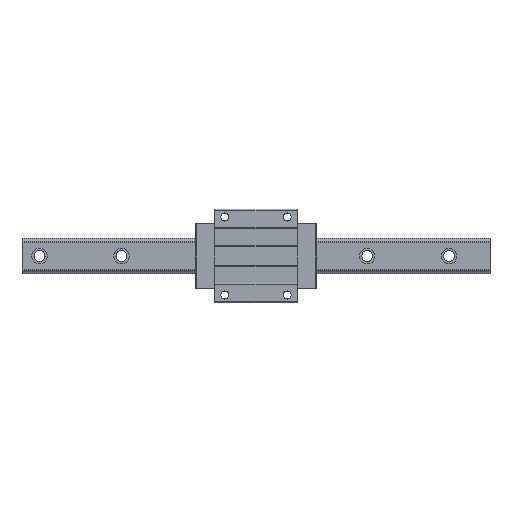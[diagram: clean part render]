
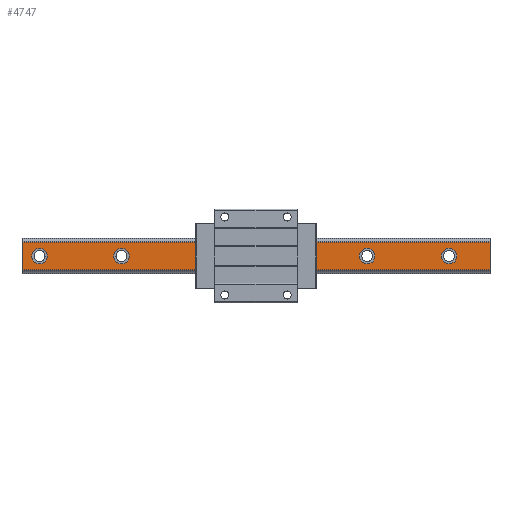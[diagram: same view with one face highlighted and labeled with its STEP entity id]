
A CAD part, top view. The second image highlights one B-rep face of the part: STEP entity #4747.
In plain terms, the highlighted planar face has unit normal (0, 0, 1).
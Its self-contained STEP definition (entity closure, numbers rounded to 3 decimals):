
#10 = EDGE_CURVE ( 'NONE', #5996, #6899, #5015, .T. ) ;
#87 = CIRCLE ( 'NONE', #2002, 10. ) ;
#147 = VERTEX_POINT ( 'NONE', #6719 ) ;
#223 = VERTEX_POINT ( 'NONE', #7252 ) ;
#259 = DIRECTION ( 'NONE',  ( 1., 0., 0. ) ) ;
#330 = ORIENTED_EDGE ( 'NONE', *, *, #3965, .F. ) ;
#353 = EDGE_CURVE ( 'NONE', #147, #5846, #4778, .T. ) ;
#419 = CIRCLE ( 'NONE', #6613, 10. ) ;
#432 = EDGE_LOOP ( 'NONE', ( #3594, #3471 ) ) ;
#446 = CARTESIAN_POINT ( 'NONE',  ( -77.5, 0., 32. ) ) ;
#450 = AXIS2_PLACEMENT_3D ( 'NONE', #6332, #3497, #259 ) ;
#515 = VERTEX_POINT ( 'NONE', #5346 ) ;
#532 = EDGE_CURVE ( 'NONE', #7146, #3016, #3218, .T. ) ;
#589 = CARTESIAN_POINT ( 'NONE',  ( 152.5, 0., 32. ) ) ;
#602 = DIRECTION ( 'NONE',  ( 0., 0., 1. ) ) ;
#603 = DIRECTION ( 'NONE',  ( 1., 0., 0. ) ) ;
#653 = CARTESIAN_POINT ( 'NONE',  ( -182.5, 0., 32. ) ) ;
#709 = CARTESIAN_POINT ( 'NONE',  ( -267.5, 0., 32. ) ) ;
#794 = ORIENTED_EDGE ( 'NONE', *, *, #4532, .F. ) ;
#808 = DIRECTION ( 'NONE',  ( 0., 0., 1. ) ) ;
#814 = EDGE_LOOP ( 'NONE', ( #5452, #4750 ) ) ;
#886 = CIRCLE ( 'NONE', #4707, 10. ) ;
#922 = ORIENTED_EDGE ( 'NONE', *, *, #1496, .F. ) ;
#1061 = CARTESIAN_POINT ( 'NONE',  ( 300., 17.738, 32. ) ) ;
#1065 = DIRECTION ( 'NONE',  ( 0., 0., 1. ) ) ;
#1148 = CIRCLE ( 'NONE', #6504, 10. ) ;
#1157 = DIRECTION ( 'NONE',  ( -1., 0., 0. ) ) ;
#1251 = EDGE_LOOP ( 'NONE', ( #6153, #6026 ) ) ;
#1255 = CIRCLE ( 'NONE', #3269, 10. ) ;
#1406 = ORIENTED_EDGE ( 'NONE', *, *, #7144, .T. ) ;
#1451 = CARTESIAN_POINT ( 'NONE',  ( -300., -17.738, 32. ) ) ;
#1484 = DIRECTION ( 'NONE',  ( 1., 0., 0. ) ) ;
#1496 = EDGE_CURVE ( 'NONE', #5846, #147, #4802, .T. ) ;
#1588 = LINE ( 'NONE', #7109, #3533 ) ;
#1618 = ORIENTED_EDGE ( 'NONE', *, *, #3562, .F. ) ;
#1635 = DIRECTION ( 'NONE',  ( 0., 0., -1. ) ) ;
#1854 = DIRECTION ( 'NONE',  ( 1., 0., 0. ) ) ;
#1908 = ORIENTED_EDGE ( 'NONE', *, *, #2469, .F. ) ;
#2002 = AXIS2_PLACEMENT_3D ( 'NONE', #2099, #2655, #3785 ) ;
#2099 = CARTESIAN_POINT ( 'NONE',  ( 247.5, 0., 32. ) ) ;
#2107 = AXIS2_PLACEMENT_3D ( 'NONE', #5049, #5090, #603 ) ;
#2185 = DIRECTION ( 'NONE',  ( 0., -1., 0. ) ) ;
#2237 = EDGE_CURVE ( 'NONE', #6899, #5996, #2925, .T. ) ;
#2243 = DIRECTION ( 'NONE',  ( 1., 0., 0. ) ) ;
#2248 = CARTESIAN_POINT ( 'NONE',  ( -300., -17.738, 32. ) ) ;
#2469 = EDGE_CURVE ( 'NONE', #5924, #5530, #419, .T. ) ;
#2655 = DIRECTION ( 'NONE',  ( 0., 0., 1. ) ) ;
#2671 = FACE_BOUND ( 'NONE', #5734, .T. ) ;
#2713 = CIRCLE ( 'NONE', #450, 10. ) ;
#2714 = FACE_BOUND ( 'NONE', #814, .T. ) ;
#2740 = CARTESIAN_POINT ( 'NONE',  ( -287.5, 0., 32. ) ) ;
#2747 = AXIS2_PLACEMENT_3D ( 'NONE', #6073, #1065, #6728 ) ;
#2760 = DIRECTION ( 'NONE',  ( 1., 0., 0. ) ) ;
#2900 = DIRECTION ( 'NONE',  ( 0., 0., 1. ) ) ;
#2925 = CIRCLE ( 'NONE', #7324, 10. ) ;
#3016 = VERTEX_POINT ( 'NONE', #5741 ) ;
#3218 = LINE ( 'NONE', #4933, #6679 ) ;
#3269 = AXIS2_PLACEMENT_3D ( 'NONE', #5469, #4912, #1484 ) ;
#3333 = ORIENTED_EDGE ( 'NONE', *, *, #532, .F. ) ;
#3356 = DIRECTION ( 'NONE',  ( 0., 0., 1. ) ) ;
#3362 = AXIS2_PLACEMENT_3D ( 'NONE', #6539, #4870, #6427 ) ;
#3413 = CIRCLE ( 'NONE', #2107, 10. ) ;
#3471 = ORIENTED_EDGE ( 'NONE', *, *, #2237, .F. ) ;
#3497 = DIRECTION ( 'NONE',  ( 0., 0., 1. ) ) ;
#3533 = VECTOR ( 'NONE', #6094, 1000. ) ;
#3562 = EDGE_CURVE ( 'NONE', #3016, #6786, #1588, .T. ) ;
#3594 = ORIENTED_EDGE ( 'NONE', *, *, #10, .F. ) ;
#3754 = EDGE_CURVE ( 'NONE', #5332, #6150, #3413, .T. ) ;
#3785 = DIRECTION ( 'NONE',  ( 1., 0., 0. ) ) ;
#3796 = VERTEX_POINT ( 'NONE', #5273 ) ;
#3824 = DIRECTION ( 'NONE',  ( 1., 0., 0. ) ) ;
#3827 = ORIENTED_EDGE ( 'NONE', *, *, #3929, .F. ) ;
#3929 = EDGE_CURVE ( 'NONE', #6351, #223, #87, .T. ) ;
#3946 = PLANE ( 'NONE',  #5564 ) ;
#3965 = EDGE_CURVE ( 'NONE', #223, #6351, #7120, .T. ) ;
#4162 = CARTESIAN_POINT ( 'NONE',  ( -57.5, 0., 32. ) ) ;
#4406 = FACE_BOUND ( 'NONE', #4602, .T. ) ;
#4532 = EDGE_CURVE ( 'NONE', #5530, #5924, #1148, .T. ) ;
#4565 = CARTESIAN_POINT ( 'NONE',  ( 132.5, 0., 32. ) ) ;
#4602 = EDGE_LOOP ( 'NONE', ( #794, #1908 ) ) ;
#4707 = AXIS2_PLACEMENT_3D ( 'NONE', #7032, #808, #1854 ) ;
#4747 = ADVANCED_FACE ( 'NONE', ( #6174, #4406, #2671, #2714, #7290, #6694, #6727 ), #3946, .F. ) ;
#4750 = ORIENTED_EDGE ( 'NONE', *, *, #6871, .F. ) ;
#4778 = CIRCLE ( 'NONE', #5719, 10. ) ;
#4802 = CIRCLE ( 'NONE', #3362, 10. ) ;
#4870 = DIRECTION ( 'NONE',  ( 0., 0., 1. ) ) ;
#4912 = DIRECTION ( 'NONE',  ( 0., 0., 1. ) ) ;
#4933 = CARTESIAN_POINT ( 'NONE',  ( 300., -17.738, 32. ) ) ;
#5015 = CIRCLE ( 'NONE', #2747, 10. ) ;
#5041 = CARTESIAN_POINT ( 'NONE',  ( 247.5, 0., 32. ) ) ;
#5049 = CARTESIAN_POINT ( 'NONE',  ( -67.5, 0., 32. ) ) ;
#5090 = DIRECTION ( 'NONE',  ( 0., 0., 1. ) ) ;
#5179 = DIRECTION ( 'NONE',  ( 1., 0., 0. ) ) ;
#5269 = CARTESIAN_POINT ( 'NONE',  ( 37.5, 0., 32. ) ) ;
#5273 = CARTESIAN_POINT ( 'NONE',  ( -300., 17.738, 32. ) ) ;
#5332 = VERTEX_POINT ( 'NONE', #4162 ) ;
#5346 = CARTESIAN_POINT ( 'NONE',  ( -162.5, 0., 32. ) ) ;
#5452 = ORIENTED_EDGE ( 'NONE', *, *, #3754, .F. ) ;
#5469 = CARTESIAN_POINT ( 'NONE',  ( -67.5, 0., 32. ) ) ;
#5530 = VERTEX_POINT ( 'NONE', #589 ) ;
#5564 = AXIS2_PLACEMENT_3D ( 'NONE', #7327, #1635, #2185 ) ;
#5569 = AXIS2_PLACEMENT_3D ( 'NONE', #5041, #3356, #2760 ) ;
#5635 = CARTESIAN_POINT ( 'NONE',  ( 142.5, 0., 32. ) ) ;
#5646 = VECTOR ( 'NONE', #5755, 1000. ) ;
#5693 = EDGE_CURVE ( 'NONE', #515, #6714, #2713, .T. ) ;
#5719 = AXIS2_PLACEMENT_3D ( 'NONE', #5269, #7318, #5787 ) ;
#5734 = EDGE_LOOP ( 'NONE', ( #922, #5959 ) ) ;
#5741 = CARTESIAN_POINT ( 'NONE',  ( 300., -17.738, 32. ) ) ;
#5755 = DIRECTION ( 'NONE',  ( 0., -1., 0. ) ) ;
#5787 = DIRECTION ( 'NONE',  ( 1., 0., 0. ) ) ;
#5812 = CARTESIAN_POINT ( 'NONE',  ( 142.5, 0., 32. ) ) ;
#5815 = CARTESIAN_POINT ( 'NONE',  ( 300., 17.738, 32. ) ) ;
#5846 = VERTEX_POINT ( 'NONE', #6415 ) ;
#5924 = VERTEX_POINT ( 'NONE', #4565 ) ;
#5959 = ORIENTED_EDGE ( 'NONE', *, *, #353, .F. ) ;
#5996 = VERTEX_POINT ( 'NONE', #709 ) ;
#6026 = ORIENTED_EDGE ( 'NONE', *, *, #6765, .F. ) ;
#6048 = LINE ( 'NONE', #5815, #7074 ) ;
#6073 = CARTESIAN_POINT ( 'NONE',  ( -277.5, 0., 32. ) ) ;
#6094 = DIRECTION ( 'NONE',  ( -1., 0., 0. ) ) ;
#6150 = VERTEX_POINT ( 'NONE', #446 ) ;
#6153 = ORIENTED_EDGE ( 'NONE', *, *, #5693, .F. ) ;
#6174 = FACE_BOUND ( 'NONE', #6672, .T. ) ;
#6282 = EDGE_CURVE ( 'NONE', #7146, #3796, #6048, .T. ) ;
#6295 = CARTESIAN_POINT ( 'NONE',  ( 257.5, 0., 32. ) ) ;
#6332 = CARTESIAN_POINT ( 'NONE',  ( -172.5, 0., 32. ) ) ;
#6351 = VERTEX_POINT ( 'NONE', #6295 ) ;
#6415 = CARTESIAN_POINT ( 'NONE',  ( 47.5, 0., 32. ) ) ;
#6427 = DIRECTION ( 'NONE',  ( 1., 0., 0. ) ) ;
#6504 = AXIS2_PLACEMENT_3D ( 'NONE', #5812, #2900, #5179 ) ;
#6539 = CARTESIAN_POINT ( 'NONE',  ( 37.5, 0., 32. ) ) ;
#6568 = DIRECTION ( 'NONE',  ( 0., -1., 0. ) ) ;
#6613 = AXIS2_PLACEMENT_3D ( 'NONE', #5635, #602, #2243 ) ;
#6672 = EDGE_LOOP ( 'NONE', ( #3827, #330 ) ) ;
#6679 = VECTOR ( 'NONE', #6568, 1000. ) ;
#6694 = FACE_BOUND ( 'NONE', #432, .T. ) ;
#6714 = VERTEX_POINT ( 'NONE', #653 ) ;
#6719 = CARTESIAN_POINT ( 'NONE',  ( 27.5, 0., 32. ) ) ;
#6727 = FACE_OUTER_BOUND ( 'NONE', #6910, .T. ) ;
#6728 = DIRECTION ( 'NONE',  ( 1., 0., 0. ) ) ;
#6765 = EDGE_CURVE ( 'NONE', #6714, #515, #886, .T. ) ;
#6786 = VERTEX_POINT ( 'NONE', #1451 ) ;
#6871 = EDGE_CURVE ( 'NONE', #6150, #5332, #1255, .T. ) ;
#6899 = VERTEX_POINT ( 'NONE', #2740 ) ;
#6907 = ORIENTED_EDGE ( 'NONE', *, *, #6282, .T. ) ;
#6910 = EDGE_LOOP ( 'NONE', ( #1406, #1618, #3333, #6907 ) ) ;
#7032 = CARTESIAN_POINT ( 'NONE',  ( -172.5, 0., 32. ) ) ;
#7074 = VECTOR ( 'NONE', #1157, 1000. ) ;
#7107 = DIRECTION ( 'NONE',  ( 0., 0., 1. ) ) ;
#7109 = CARTESIAN_POINT ( 'NONE',  ( 300., -17.738, 32. ) ) ;
#7120 = CIRCLE ( 'NONE', #5569, 10. ) ;
#7144 = EDGE_CURVE ( 'NONE', #3796, #6786, #7360, .T. ) ;
#7146 = VERTEX_POINT ( 'NONE', #1061 ) ;
#7175 = CARTESIAN_POINT ( 'NONE',  ( -277.5, 0., 32. ) ) ;
#7252 = CARTESIAN_POINT ( 'NONE',  ( 237.5, 0., 32. ) ) ;
#7290 = FACE_BOUND ( 'NONE', #1251, .T. ) ;
#7318 = DIRECTION ( 'NONE',  ( 0., 0., 1. ) ) ;
#7324 = AXIS2_PLACEMENT_3D ( 'NONE', #7175, #7107, #3824 ) ;
#7327 = CARTESIAN_POINT ( 'NONE',  ( 300., -17.738, 32. ) ) ;
#7360 = LINE ( 'NONE', #2248, #5646 ) ;
